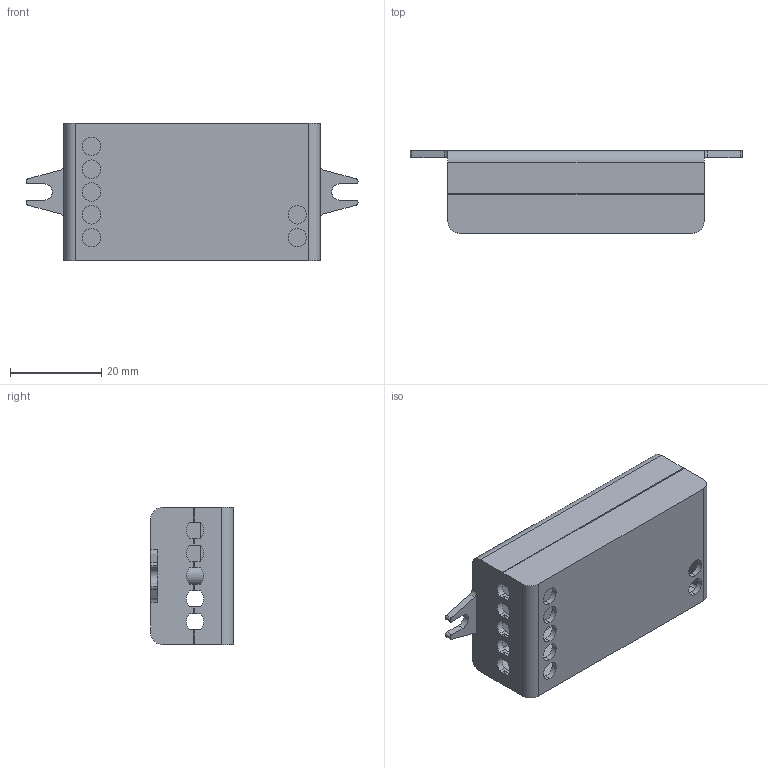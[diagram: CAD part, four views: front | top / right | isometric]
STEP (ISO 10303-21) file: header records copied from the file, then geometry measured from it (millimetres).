
FILE_DESCRIPTION (( 'STEP AP214' ), '1' );
FILE_NAME ('DMX Engineering_Casambi Standard Case.STEP', '2025-11-04T18:33:59', ( '' ), ( '' ), 'SwSTEP 2.0', 'SolidWorks 2024', '' );
FILE_SCHEMA (( 'AUTOMOTIVE_DESIGN' ));
Length unit declared in the file: millimetre
Products named in the file (3): DMX Engineering_HOU-00001_Top_V2; DMX Engineering_HOU-00001_bottom_V3; DMX Engineering_Casambi Standard Case
Assembly tree (2 placements, depth 2):
  DMX Engineering_Casambi Standard Case
    DMX Engineering_HOU-00001_bottom_V3
    DMX Engineering_HOU-00001_Top_V2
Bounding box: 72.6 x 18.05 x 30 mm (x, y, z)
Volume: 8708.4 mm3; surface area: 12710.4 mm2
Topology: 2 solids, 2 shells, 261 faces, 734 edges, 474 vertices
Faces by surface type: plane 135, cylinder 109, torus 8, sphere 7, cone 2
Entity records: 8464 total; most frequent: DIRECTION 1480, CARTESIAN_POINT 1456, ORIENTED_EDGE 1440, EDGE_CURVE 720, AXIS2_PLACEMENT_3D 494, VECTOR 492, LINE 492, VERTEX_POINT 470
